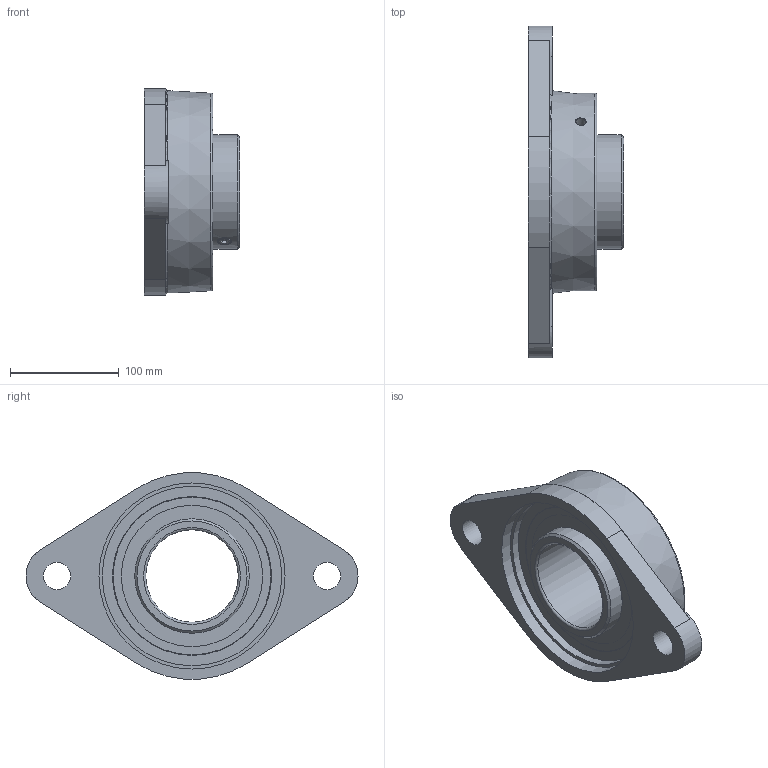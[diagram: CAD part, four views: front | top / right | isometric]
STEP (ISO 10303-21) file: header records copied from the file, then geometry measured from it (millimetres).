
FILE_DESCRIPTION (( 'STEP AP203' ), '1' );
FILE_NAME ('UCFL-217.STEP', '2019-03-08T12:11:28', ( '' ), ( '' ), 'SwSTEP 2.0', 'SolidWorks 2017', '' );
FILE_SCHEMA (( 'CONFIG_CONTROL_DESIGN' ));
Length unit declared in the file: millimetre
Products named in the file (1): UCFL-217
Bounding box: 87.6 x 305 x 189.38 mm (x, y, z)
Volume: 1133787 mm3; surface area: 193304.1 mm2
Topology: 1 solids, 3 shells, 92 faces, 208 edges, 140 vertices
Faces by surface type: plane 43, cylinder 23, cone 10, torus 9, sphere 7
Full cylindrical faces by diameter (mm): 1.75 x4, 8.917 x1, 12 x2, 25 x2, 85 x1, 105.1 x4, 129.849 x2, 165 x2, 171 x1
Entity records: 3040 total; most frequent: CARTESIAN_POINT 1134, DIRECTION 380, ORIENTED_EDGE 302, AXIS2_PLACEMENT_3D 158, EDGE_LOOP 156, EDGE_CURVE 151, VERTEX_POINT 119, FACE_OUTER_BOUND 118
